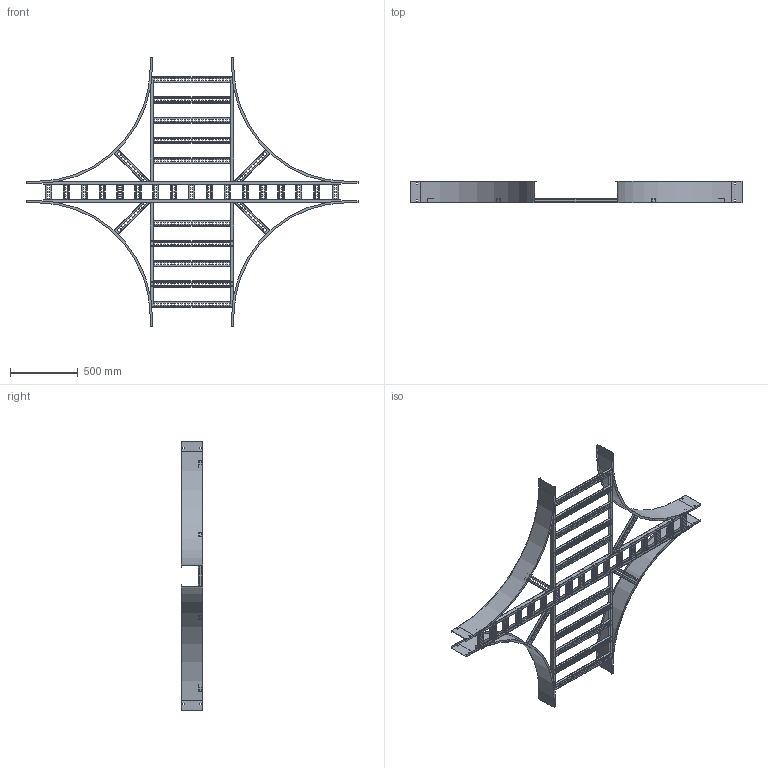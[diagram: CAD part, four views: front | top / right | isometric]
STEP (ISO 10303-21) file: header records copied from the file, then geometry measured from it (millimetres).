
FILE_DESCRIPTION((''),'2;1');
FILE_NAME('AUF60624VEX36_ASM','2010-02-03T',('erouzier'),(''),'PRO/ENGINEER BY PARAMETRIC TECHNOLOGY CORPORATION, 2008510','PRO/ENGINEER BY PARAMETRIC TECHNOLOGY CORPORATION, 2008510','');
FILE_SCHEMA(('CONFIG_CONTROL_DESIGN'));
Length unit declared in the file: inch
Products named in the file (29): CDS001321-6-90-33-I; CDS002159L6-P_AF15; CDS002159L6-P_AF16; CDS002159L6-P_AF17; CDS002159L6-P_AF18; CDS002159L6-P_AF24; CDS002159L6-P_AF26; CDS002159L6-P_AF28; CDS002159L6-P; CDS002159L6-P_AF19; CDS002159L6-P_AF20; CDS002159L6-P_AF21; CDS002159L6-P_AF23; CDS002159L6-P_AF25; CDS002159L6-P_AF27; CDS002159L6-P_AF29; CDS002159L6-P_AF22; CDS000495_GEN_AF18; CDS000495_GEN_AF19; CDS000495_GEN_AF22; CDS000495_GEN_AF23; CDS000495_GEN_AF20; CDS000495_GEN_AF21; CDS002159L18-P_AF6; CDS002159L18-P_AF7; CDS002159L18-P_AF4; CDS002159L18-P_AF5; CDS002159L24-P; AUF60624VEX36_ASM
Assembly tree (41 placements, depth 2):
  AUF60624VEX36_ASM
    CDS001321-6-90-33-I  x4
    CDS002159L6-P_AF15
    CDS002159L6-P_AF16
    CDS002159L6-P_AF17
    CDS002159L6-P_AF18
    CDS002159L6-P_AF24
    CDS002159L6-P_AF26
    CDS002159L6-P_AF28
    CDS002159L6-P  x2
    CDS002159L6-P_AF19
    CDS002159L6-P_AF20
    CDS002159L6-P_AF21
    CDS002159L6-P_AF23
    CDS002159L6-P_AF25
    CDS002159L6-P_AF27
    CDS002159L6-P_AF29
    CDS002159L6-P_AF22
    CDS000495_GEN_AF18
    CDS000495_GEN_AF19
    CDS000495_GEN_AF22
    CDS000495_GEN_AF23
    CDS000495_GEN_AF20
    CDS000495_GEN_AF21
    CDS002159L18-P_AF6
    CDS002159L18-P_AF7
    CDS002159L18-P_AF4
    CDS002159L18-P_AF5
    CDS002159L24-P  x10
Bounding box: 2443.23 x 157.23 x 1986.03 mm (x, y, z)
Volume: 5128611.6 mm3; surface area: 5432506 mm2
Topology: 41 solids, 41 shells, 3814 faces, 11196 edges, 7464 vertices
Faces by surface type: plane 2117, cylinder 1697
Entity records: 61049 total; most frequent: CARTESIAN_POINT 10910, ORIENTED_EDGE 10440, DIRECTION 10398, EDGE_CURVE 5220, VECTOR 3686, LINE 3686, VERTEX_POINT 3480, AXIS2_PLACEMENT_3D 3356
